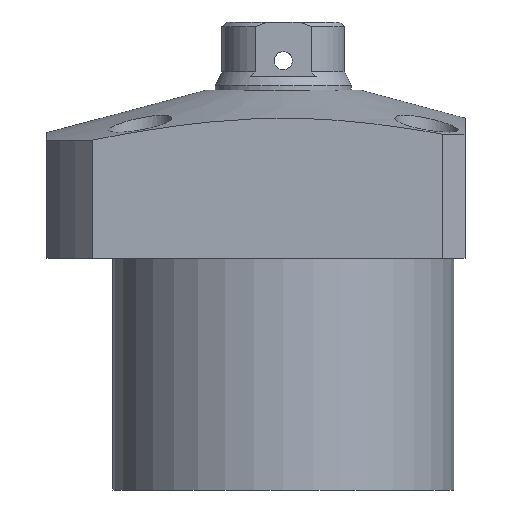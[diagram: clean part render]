
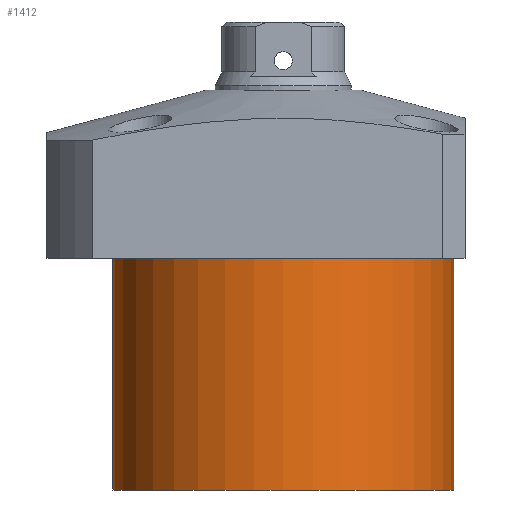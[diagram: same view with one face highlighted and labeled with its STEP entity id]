
A CAD part, front view. The second image highlights one B-rep face of the part: STEP entity #1412.
In plain terms, the highlighted cylindrical face has radius 37.5 mm (diameter 75 mm), a partial arc.
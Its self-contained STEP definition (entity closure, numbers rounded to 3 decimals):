
#13 = VERTEX_POINT ( 'NONE', #682 ) ;
#82 = CARTESIAN_POINT ( 'NONE',  ( -37.5, 0., -69.5 ) ) ;
#100 = DIRECTION ( 'NONE',  ( 0., 0., -1. ) ) ;
#299 = CIRCLE ( 'NONE', #964, 37.5 ) ;
#305 = EDGE_CURVE ( 'NONE', #13, #1864, #1040, .T. ) ;
#317 = DIRECTION ( 'NONE',  ( 1., 0., 0. ) ) ;
#597 = LINE ( 'NONE', #926, #2229 ) ;
#632 = CARTESIAN_POINT ( 'NONE',  ( 0., 0., -69.5 ) ) ;
#682 = CARTESIAN_POINT ( 'NONE',  ( -37.5, 0., -69.5 ) ) ;
#783 = EDGE_LOOP ( 'NONE', ( #1055, #1057, #1011, #1292 ) ) ;
#799 = DIRECTION ( 'NONE',  ( 0., 0., -1. ) ) ;
#827 = EDGE_CURVE ( 'NONE', #1867, #1864, #1455, .T. ) ;
#857 = AXIS2_PLACEMENT_3D ( 'NONE', #2258, #100, #317 ) ;
#926 = CARTESIAN_POINT ( 'NONE',  ( 37.5, 0., -69.5 ) ) ;
#964 = AXIS2_PLACEMENT_3D ( 'NONE', #2509, #799, #1008 ) ;
#1008 = DIRECTION ( 'NONE',  ( -1., 0., 0. ) ) ;
#1011 = ORIENTED_EDGE ( 'NONE', *, *, #2624, .T. ) ;
#1040 = LINE ( 'NONE', #82, #2632 ) ;
#1055 = ORIENTED_EDGE ( 'NONE', *, *, #305, .F. ) ;
#1057 = ORIENTED_EDGE ( 'NONE', *, *, #1322, .F. ) ;
#1193 = DIRECTION ( 'NONE',  ( 0., 0., 1. ) ) ;
#1279 = FACE_OUTER_BOUND ( 'NONE', #783, .T. ) ;
#1292 = ORIENTED_EDGE ( 'NONE', *, *, #827, .T. ) ;
#1322 = EDGE_CURVE ( 'NONE', #2007, #13, #299, .T. ) ;
#1412 = ADVANCED_FACE ( 'NONE', ( #1279 ), #2441, .T. ) ;
#1455 = CIRCLE ( 'NONE', #857, 37.5 ) ;
#1864 = VERTEX_POINT ( 'NONE', #1976 ) ;
#1867 = VERTEX_POINT ( 'NONE', #2235 ) ;
#1956 = DIRECTION ( 'NONE',  ( 1., 0., 0. ) ) ;
#1976 = CARTESIAN_POINT ( 'NONE',  ( -37.5, 0., -18.5 ) ) ;
#2007 = VERTEX_POINT ( 'NONE', #2462 ) ;
#2229 = VECTOR ( 'NONE', #1193, 1000. ) ;
#2235 = CARTESIAN_POINT ( 'NONE',  ( 37.5, 0., -18.5 ) ) ;
#2258 = CARTESIAN_POINT ( 'NONE',  ( 0., 0., -18.5 ) ) ;
#2344 = AXIS2_PLACEMENT_3D ( 'NONE', #632, #2373, #1956 ) ;
#2373 = DIRECTION ( 'NONE',  ( 0., 0., 1. ) ) ;
#2441 = CYLINDRICAL_SURFACE ( 'NONE', #2344, 37.5 ) ;
#2456 = DIRECTION ( 'NONE',  ( 0., 0., 1. ) ) ;
#2462 = CARTESIAN_POINT ( 'NONE',  ( 37.5, 0., -69.5 ) ) ;
#2509 = CARTESIAN_POINT ( 'NONE',  ( 0., 0., -69.5 ) ) ;
#2624 = EDGE_CURVE ( 'NONE', #2007, #1867, #597, .T. ) ;
#2632 = VECTOR ( 'NONE', #2456, 1000. ) ;
